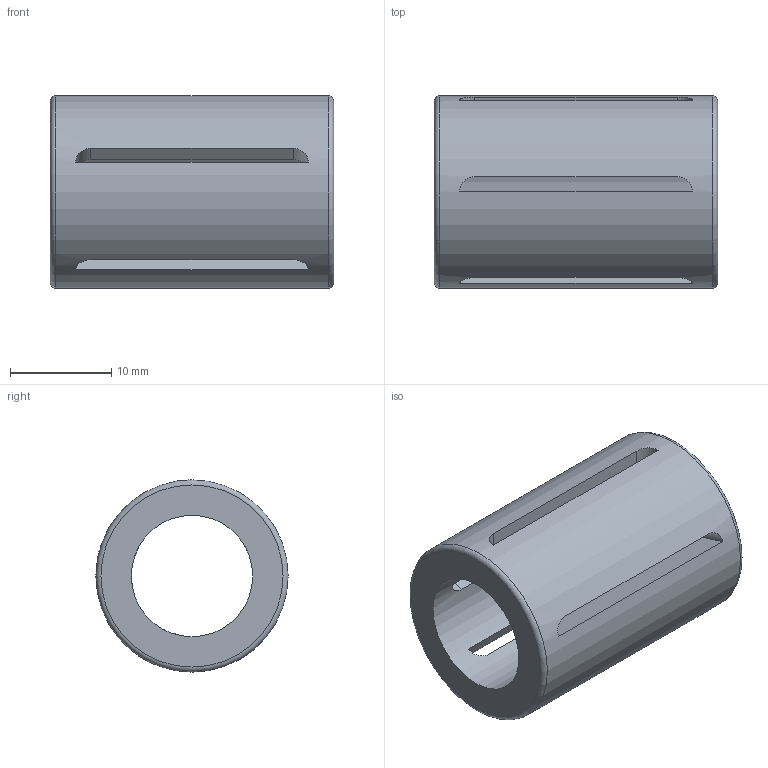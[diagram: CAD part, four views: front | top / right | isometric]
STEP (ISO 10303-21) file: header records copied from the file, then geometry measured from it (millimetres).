
FILE_DESCRIPTION(/* description */ ('Unknown'),/* implementation_level */ '2;1');
FILE_NAME(/* name */ 'KH1228',/* time_stamp */ '2025-02-04T09:46:15+08:00',/* author */ ('Unknown'),/* organization */ ('Unknown'),/* preprocessor_version */ 'ST-DEVELOPER v18.102',/* originating_system */ 'Solid Edge',/* authorisation */ 'Unknown');
FILE_SCHEMA (('AUTOMOTIVE_DESIGN {1 0 10303 214 3 1 1}'));
Length unit declared in the file: millimetre
Products named in the file (1): KH1228
Bounding box: 28 x 19 x 19 mm (x, y, z)
Volume: 4175.1 mm3; surface area: 3547.1 mm2
Topology: 1 solids, 1 shells, 26 faces, 70 edges, 46 vertices
Faces by surface type: cylinder 12, plane 12, torus 2
Full cylindrical faces by diameter (mm): 12 x1, 19 x1
Entity records: 878 total; most frequent: CARTESIAN_POINT 219, ORIENTED_EDGE 132, DIRECTION 106, EDGE_CURVE 66, VERTEX_POINT 46, EDGE_LOOP 42, FACE_BOUND 42, LINE 40
